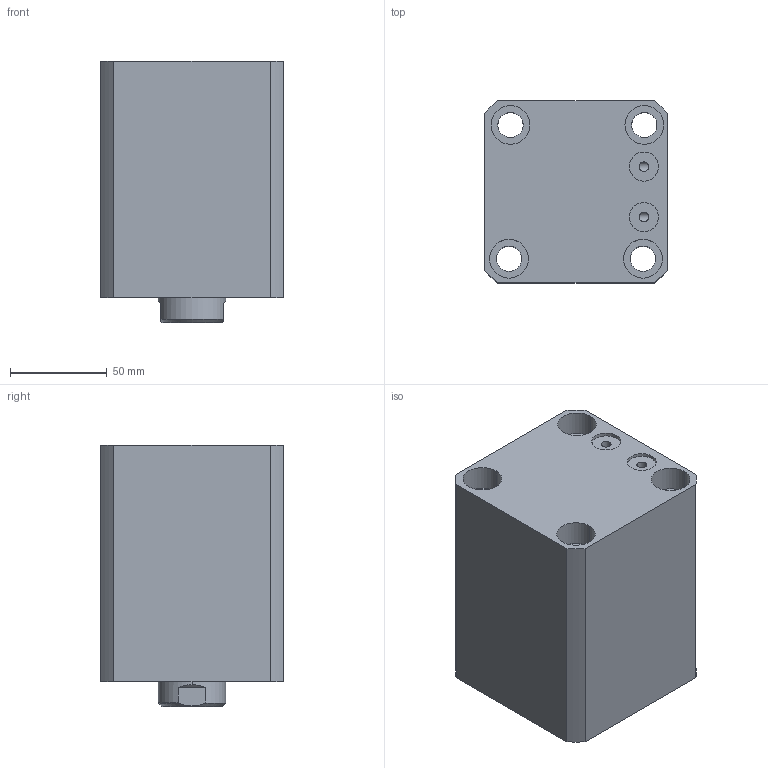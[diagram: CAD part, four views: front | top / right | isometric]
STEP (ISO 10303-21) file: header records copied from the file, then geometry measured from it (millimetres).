
FILE_DESCRIPTION (( 'STEP AP214' ), '1' );
FILE_NAME ('chtb-sdmb63x55n_asm.STEP', '2018-05-16T06:50:44', ( 'Windows' ), ( 'Microsoft' ), 'SwSTEP 2.0', 'SolidWorks 2015', '' );
FILE_SCHEMA (( 'AUTOMOTIVE_DESIGN' ));
Length unit declared in the file: millimetre
Products named in the file (4): CHTB-SDMB63X55NBT; CHTB63X55NHSG; CHTB-63QG; chtb-sdmb63x55n_asm
Assembly tree (3 placements, depth 2):
  chtb-sdmb63x55n_asm
    CHTB-63QG
    CHTB63X55NHSG
    CHTB-SDMB63X55NBT
Bounding box: 94 x 94 x 135 mm (x, y, z)
Volume: 866061 mm3; surface area: 149347.8 mm2
Topology: 3 solids, 3 shells, 164 faces, 468 edges, 318 vertices
Faces by surface type: cylinder 107, plane 30, bspline 12, cone 8, torus 7
Entity records: 17708 total; most frequent: CARTESIAN_POINT 13594, ORIENTED_EDGE 924, DIRECTION 707, EDGE_CURVE 462, VERTEX_POINT 318, AXIS2_PLACEMENT_3D 284, EDGE_LOOP 196, FACE_OUTER_BOUND 164
